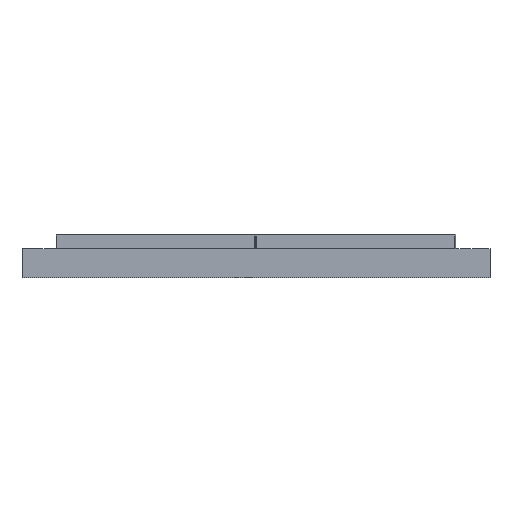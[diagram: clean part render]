
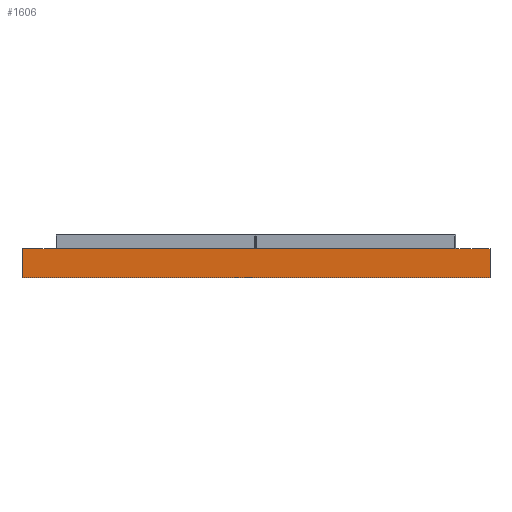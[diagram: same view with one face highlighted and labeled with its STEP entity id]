
A CAD part, front view. The second image highlights one B-rep face of the part: STEP entity #1606.
In plain terms, the highlighted planar face has unit normal (-0.035, -0.999, 0).
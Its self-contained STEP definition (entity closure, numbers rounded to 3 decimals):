
#42 = EDGE_CURVE ( 'NONE', #12342, #13537, #655, .T. ) ;
#464 = VECTOR ( 'NONE', #3548, 1000. ) ;
#655 = LINE ( 'NONE', #8540, #12058 ) ;
#715 = CARTESIAN_POINT ( 'NONE',  ( -64.5, 554.277, 0. ) ) ;
#1181 = DIRECTION ( 'NONE',  ( 0., 0., 1. ) ) ;
#1606 = ADVANCED_FACE ( 'NONE', ( #12773 ), #12861, .T. ) ;
#1803 = CARTESIAN_POINT ( 'NONE',  ( -64.5, 554.277, 8. ) ) ;
#1822 = CARTESIAN_POINT ( 'NONE',  ( 64.5, 549.773, 0. ) ) ;
#2549 = ORIENTED_EDGE ( 'NONE', *, *, #10008, .T. ) ;
#3446 = ORIENTED_EDGE ( 'NONE', *, *, #9571, .F. ) ;
#3515 = VECTOR ( 'NONE', #1181, 1000. ) ;
#3520 = ORIENTED_EDGE ( 'NONE', *, *, #12889, .T. ) ;
#3548 = DIRECTION ( 'NONE',  ( 0., 0., -1. ) ) ;
#4626 = VERTEX_POINT ( 'NONE', #715 ) ;
#4831 = LINE ( 'NONE', #11879, #464 ) ;
#5865 = LINE ( 'NONE', #1822, #15069 ) ;
#6130 = DIRECTION ( 'NONE',  ( -0.999, 0.035, 0. ) ) ;
#6423 = VERTEX_POINT ( 'NONE', #13144 ) ;
#7036 = CARTESIAN_POINT ( 'NONE',  ( 64.5, 549.773, 8. ) ) ;
#7370 = CARTESIAN_POINT ( 'NONE',  ( 65., 549.755, 8. ) ) ;
#8540 = CARTESIAN_POINT ( 'NONE',  ( 65., 549.755, 8. ) ) ;
#9571 = EDGE_CURVE ( 'NONE', #6423, #4626, #5865, .T. ) ;
#9765 = ORIENTED_EDGE ( 'NONE', *, *, #42, .T. ) ;
#10005 = AXIS2_PLACEMENT_3D ( 'NONE', #7370, #10200, #15800 ) ;
#10008 = EDGE_CURVE ( 'NONE', #13537, #4626, #4831, .T. ) ;
#10200 = DIRECTION ( 'NONE',  ( -0.035, -0.999, 0. ) ) ;
#11375 = DIRECTION ( 'NONE',  ( -0.999, 0.035, 0. ) ) ;
#11879 = CARTESIAN_POINT ( 'NONE',  ( -64.5, 554.277, 8. ) ) ;
#12058 = VECTOR ( 'NONE', #11375, 1000. ) ;
#12342 = VERTEX_POINT ( 'NONE', #17763 ) ;
#12773 = FACE_OUTER_BOUND ( 'NONE', #17319, .T. ) ;
#12861 = PLANE ( 'NONE',  #10005 ) ;
#12889 = EDGE_CURVE ( 'NONE', #6423, #12342, #13721, .T. ) ;
#13144 = CARTESIAN_POINT ( 'NONE',  ( 64.5, 549.773, 0. ) ) ;
#13537 = VERTEX_POINT ( 'NONE', #1803 ) ;
#13721 = LINE ( 'NONE', #7036, #3515 ) ;
#15069 = VECTOR ( 'NONE', #6130, 1000. ) ;
#15800 = DIRECTION ( 'NONE',  ( -0.999, 0.035, 0. ) ) ;
#17319 = EDGE_LOOP ( 'NONE', ( #3520, #9765, #2549, #3446 ) ) ;
#17763 = CARTESIAN_POINT ( 'NONE',  ( 64.5, 549.773, 8. ) ) ;
